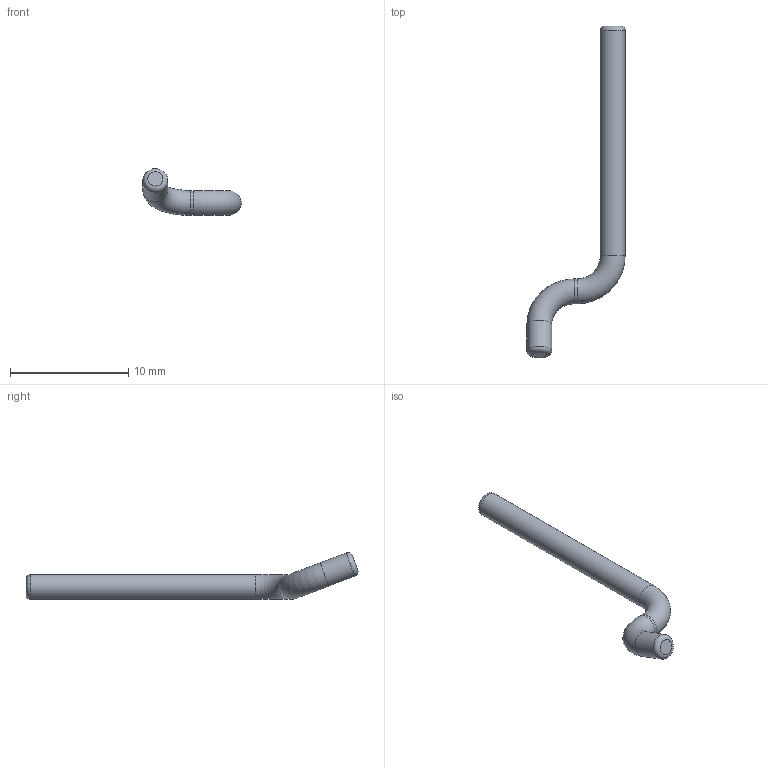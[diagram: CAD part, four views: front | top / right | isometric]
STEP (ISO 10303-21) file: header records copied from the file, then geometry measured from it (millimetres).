
FILE_DESCRIPTION(('Open CASCADE Model'),'2;1');
FILE_NAME('CUT_ROUTE_16_RADIAL_CLEARANCE_0p4','2026-09-15T14:21:57',( 'Author'),('Open CASCADE'),'Open CASCADE STEP processor 7.9', 'build123d','Unknown');
FILE_SCHEMA(('AUTOMOTIVE_DESIGN { 1 0 10303 214 1 1 1 1 }'));
Length unit declared in the file: millimetre
Products named in the file (1): CUT_ROUTE_16_RADIAL_CLEARANCE_0p4
Bounding box: 8.3 x 28.03 x 3.96 mm (x, y, z)
Volume: 109.6 mm3; surface area: 214.1 mm2
Topology: 1 solids, 1 shells, 9 faces, 15 edges, 8 vertices
Faces by surface type: torus 4, cylinder 3, plane 2
Full cylindrical faces by diameter (mm): 2.1 x3
Entity records: 409 total; most frequent: CARTESIAN_POINT 72, DIRECTION 68, ORIENTED_EDGE 30, PCURVE 30, DEFINITIONAL_REPRESENTATION 30, AXIS2_PLACEMENT_3D 22, LINE 22, VECTOR 22
